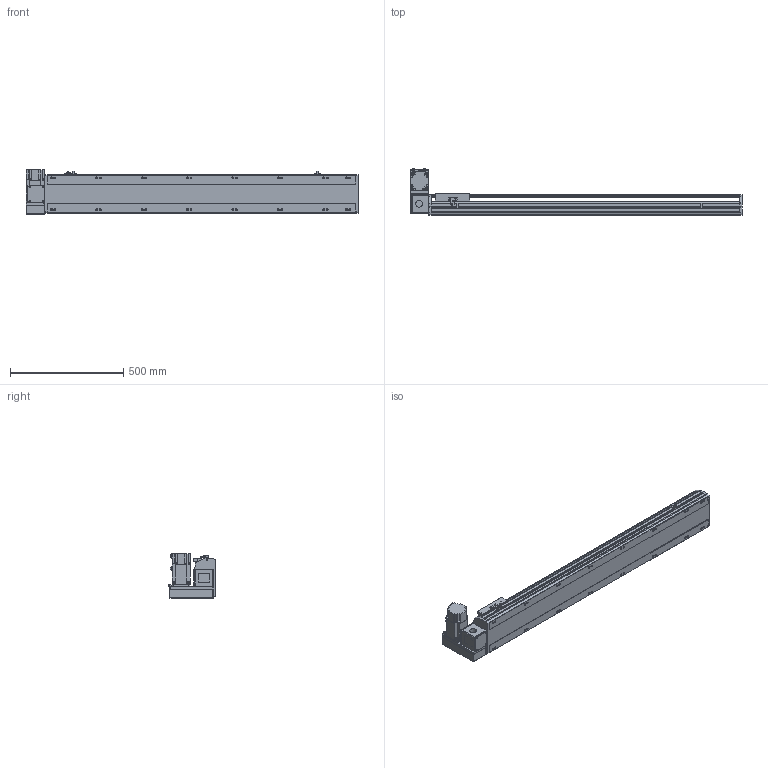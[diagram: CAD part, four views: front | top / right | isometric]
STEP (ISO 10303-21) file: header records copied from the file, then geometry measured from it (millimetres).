
FILE_DESCRIPTION( ( 'STEP AP214' ), '1' );
FILE_NAME( 'x:/temp/worker_4/temp/exporttempdir_2248_397_nfqjE/format_0/PBS170-P40-S1100-LU-T75-C1-N(0).stp', '2022-06-07T08:15:24', ( 'License CC BY-ND 4.0' ), ( 'CADENAS' ), ' ', 'PARTsolutions', ' ' );
FILE_SCHEMA( ( 'AUTOMOTIVE_DESIGN { 1 0 10303 214 1 1 1 1 }' ) );
Length unit declared in the file: millimetre
Products named in the file (7): PBS170-P40-S1100-LU-T75-C1-N(0); _PBS170-S1100()_body; _PBS170T-LU_motors; _T75-p1; _PBS170_sliser; _PBS170_plant; _PBS170_sensor
Assembly tree (8 placements, depth 2):
  PBS170-P40-S1100-LU-T75-C1-N(0)
    _PBS170-S1100()_body
    _PBS170T-LU_motors
    _T75-p1
    _PBS170_sliser
    _PBS170_plant
    _PBS170_sensor  x3
Bounding box: 1463 x 206 x 197.3 mm (x, y, z)
Volume: 11701873.6 mm3; surface area: 1526560.8 mm2
Topology: 8 solids, 8 shells, 1082 faces, 2875 edges, 1874 vertices
Faces by surface type: plane 687, cylinder 339, cone 46, sphere 8, torus 2
Full cylindrical faces by diameter (mm): 3.242 x4, 4 x2, 4.4 x4, 4.5 x6, 4.917 x4, 6 x9, 6.647 x24, 7 x2, 7.5 x4, 8 x8, 8.5 x16, 10 x4, 10.5 x16, 11 x2, 30 x2, 40 x1, 70 x1
Entity records: 39740 total; most frequent: CARTESIAN_POINT 6221, DIRECTION 5300, ORIENTED_EDGE 5028, EDGE_CURVE 2514, AXIS2_PLACEMENT_3D 1837, VERTEX_POINT 1730, LINE 1626, VECTOR 1626
